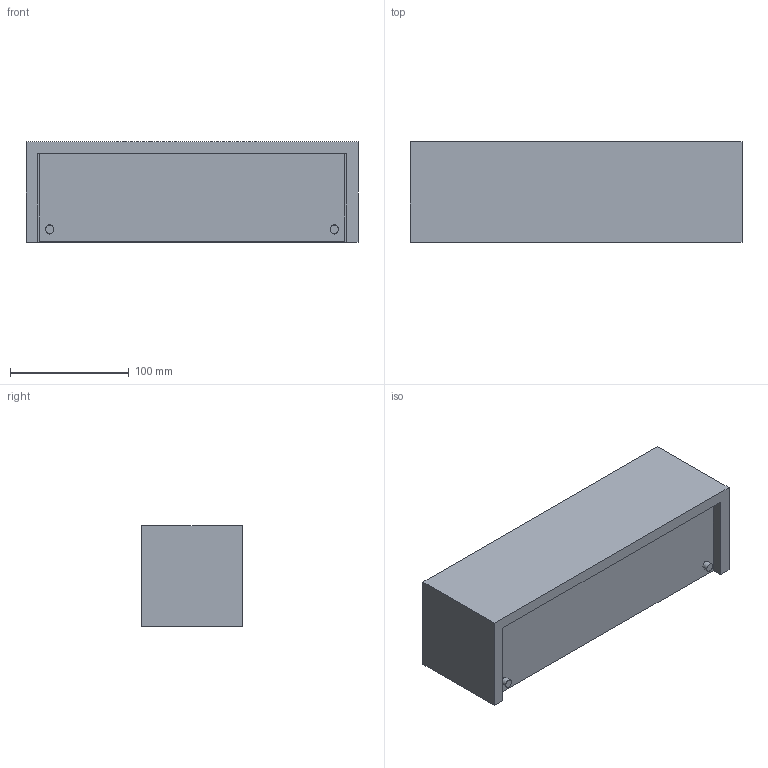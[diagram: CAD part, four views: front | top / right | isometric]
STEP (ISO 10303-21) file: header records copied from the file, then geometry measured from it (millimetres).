
FILE_DESCRIPTION(/* description */ (''),/* implementation_level */ '2;1');
FILE_NAME(/* name */ '63420_3d.step',/* time_stamp */ '2024-05-27T16:17:27+02:00',/* author */ ('RenataManzini'),/* organization */ (''),/* preprocessor_version */ 'ST-DEVELOPER v20',/* originating_system */ 'AutoCAD Mechanical',/* authorisation */ '');
FILE_SCHEMA (('AUTOMOTIVE_DESIGN { 1 0 10303 214 3 1 1 }'));
Length unit declared in the file: millimetre
Products named in the file (2): Product; Milo_280 - lamp-712819-_3D_
Assembly tree (1 placements, depth 2):
  Product
    Milo_280 - lamp-712819-_3D_
Bounding box: 280 x 85 x 85 mm (x, y, z)
Volume: 793062.8 mm3; surface area: 235657.3 mm2
Topology: 12 solids, 60 shells, 159 faces, 479 edges, 393 vertices
Faces by surface type: plane 95, cylinder 56, bspline 4, sphere 4
Entity records: 9381 total; most frequent: CARTESIAN_POINT 5073, DIRECTION 770, ORIENTED_EDGE 716, EDGE_CURVE 476, VERTEX_POINT 388, LINE 324, VECTOR 324, AXIS2_PLACEMENT_3D 223
